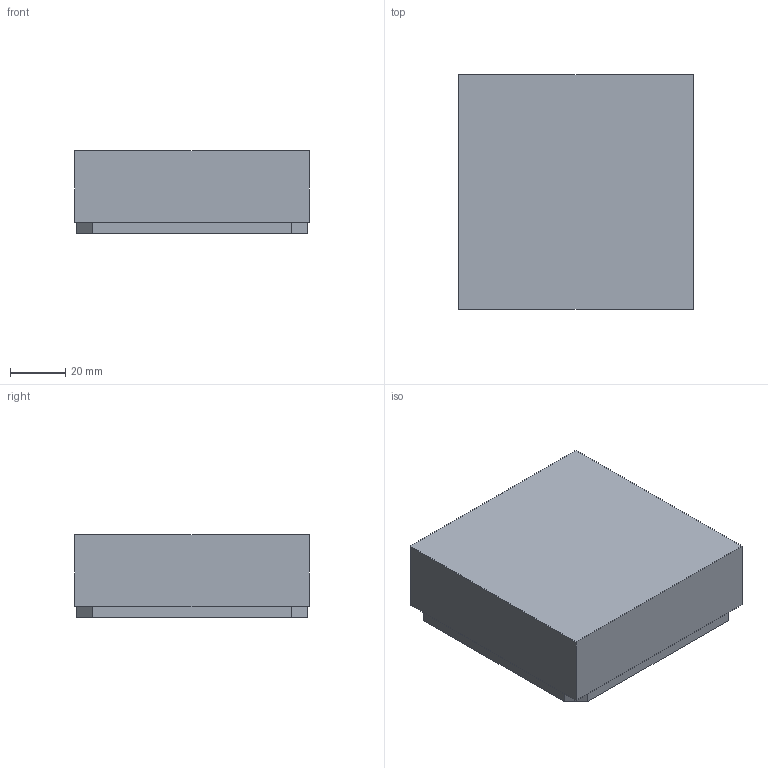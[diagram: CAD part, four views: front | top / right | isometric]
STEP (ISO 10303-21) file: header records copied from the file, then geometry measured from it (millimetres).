
FILE_DESCRIPTION(/* description */ (''),/* implementation_level */ '2;1');
FILE_NAME(/* name */ 'LA-5567-3992-A.stp',/* time_stamp */ '2015-10-05T11:19:11+01:00',/* author */ (''),/* organization */ (''),/* preprocessor_version */ 'ST-DEVELOPER v11',/* originating_system */ 'SIEMENS PLM Software NX 7.5',/* authorisation */ '');
FILE_SCHEMA (('AUTOMOTIVE_DESIGN { 1 0 10303 214 1 1 1 1 }'));
Length unit declared in the file: millimetre
Products named in the file (1): rt13FF11qj1l
Bounding box: 85 x 85 x 30 mm (x, y, z)
Volume: 202274.5 mm3; surface area: 25687.8 mm2
Topology: 1 solids, 1 shells, 36 faces, 88 edges, 60 vertices
Faces by surface type: plane 27, cylinder 9
Full cylindrical faces by diameter (mm): 4.3 x4
Entity records: 1112 total; most frequent: CARTESIAN_POINT 185, DIRECTION 168, ORIENTED_EDGE 160, EDGE_CURVE 80, LINE 58, VECTOR 58, VERTEX_POINT 56, AXIS2_PLACEMENT_3D 55
